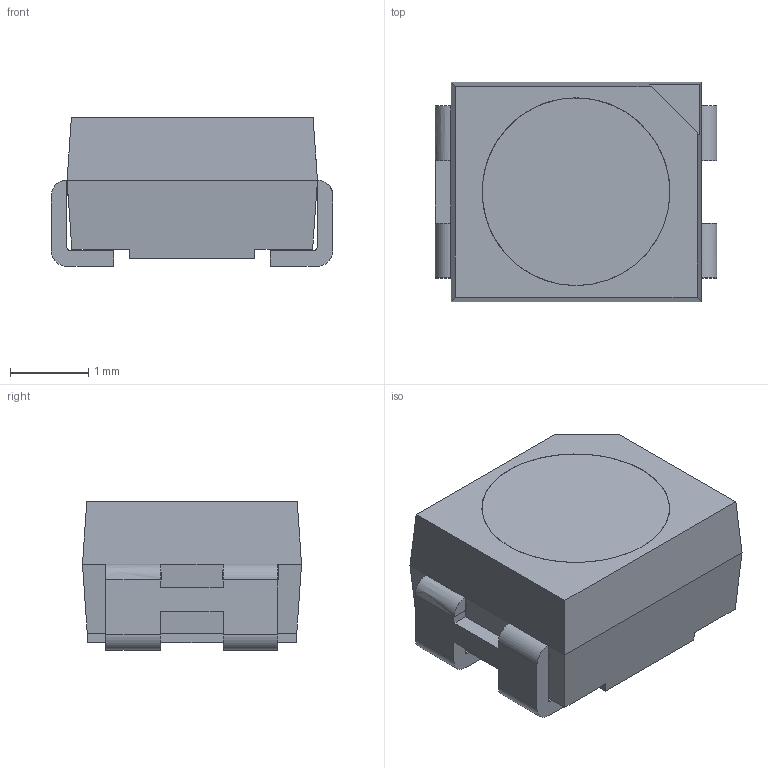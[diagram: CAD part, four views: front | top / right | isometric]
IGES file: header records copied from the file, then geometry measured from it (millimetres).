
Start section: 3D InterOp IGES (Version 20 0 3), Spatial Corp. Copyright (c) 1999-2007.
Global section: file name: DWA-MKG-200919.igs; native system: Spatial Corp.; preprocessor: 3D InterOp ACIS/IGES; author: Noname; organization: Noname; date: 20190920.161513; units: millimetre
Bounding box: 3.6 x 2.8 x 1.9 mm (x, y, z)
Surface area: 60.6 mm2 (no closed solid volume)
Topology: 0 solids, 0 shells, 93 faces, 504 edges, 504 vertices
Faces by surface type: extrusion 77, revolution 16
